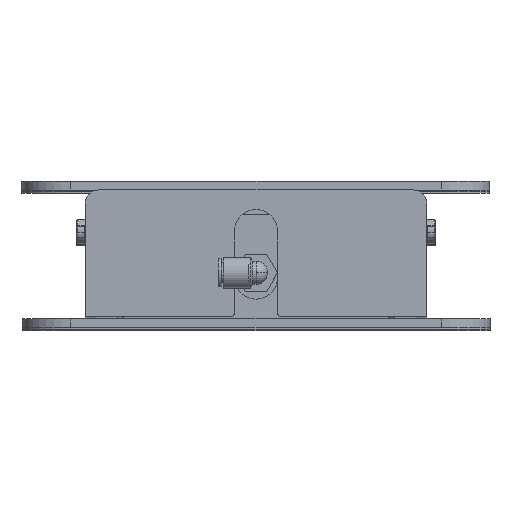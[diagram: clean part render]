
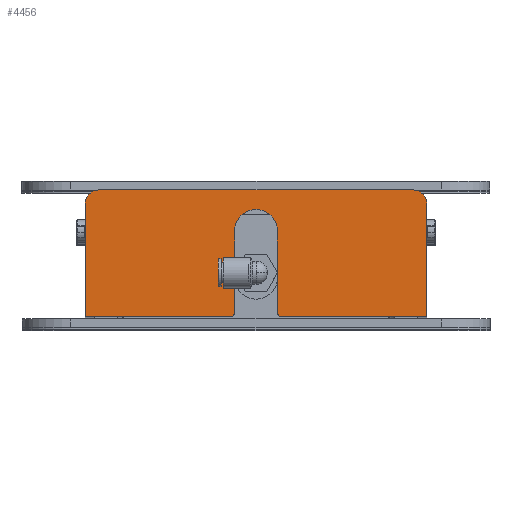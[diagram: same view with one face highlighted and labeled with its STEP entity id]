
A CAD part, top view. The second image highlights one B-rep face of the part: STEP entity #4456.
In plain terms, the highlighted planar face has unit normal (0, 0, 1).
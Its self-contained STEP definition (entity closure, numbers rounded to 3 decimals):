
#96 = ORIENTED_EDGE ( 'NONE', *, *, #3997, .F. ) ;
#107 = EDGE_CURVE ( 'NONE', #4542, #6041, #4423, .T. ) ;
#182 = AXIS2_PLACEMENT_3D ( 'NONE', #1373, #6258, #2102 ) ;
#296 = LINE ( 'NONE', #7805, #4040 ) ;
#327 = CIRCLE ( 'NONE', #2382, 6.75 ) ;
#629 = ORIENTED_EDGE ( 'NONE', *, *, #1342, .T. ) ;
#690 = CIRCLE ( 'NONE', #1013, 2. ) ;
#748 = CARTESIAN_POINT ( 'NONE',  ( 87.5, 25.75, 1000. ) ) ;
#903 = EDGE_LOOP ( 'NONE', ( #5962, #6423, #629, #4422, #5987, #6036, #2576, #7437, #5629, #8675, #96, #8716 ) ) ;
#1013 = AXIS2_PLACEMENT_3D ( 'NONE', #5265, #1056, #5939 ) ;
#1056 = DIRECTION ( 'NONE',  ( 0., 0., 1. ) ) ;
#1158 = VECTOR ( 'NONE', #3980, 1000. ) ;
#1195 = CARTESIAN_POINT ( 'NONE',  ( 0., 11.5, 1000. ) ) ;
#1315 = VERTEX_POINT ( 'NONE', #3939 ) ;
#1342 = EDGE_CURVE ( 'NONE', #6807, #4903, #8809, .T. ) ;
#1372 = CARTESIAN_POINT ( 'NONE',  ( -11., 11.5, 1000. ) ) ;
#1373 = CARTESIAN_POINT ( 'NONE',  ( 80.75, 25.75, 1000. ) ) ;
#1446 = AXIS2_PLACEMENT_3D ( 'NONE', #6606, #2440, #7317 ) ;
#1461 = EDGE_CURVE ( 'NONE', #3888, #4542, #8247, .T. ) ;
#1666 = CARTESIAN_POINT ( 'NONE',  ( 87.5, 32.5, 1000. ) ) ;
#1924 = DIRECTION ( 'NONE',  ( 1., 0., 0. ) ) ;
#2102 = DIRECTION ( 'NONE',  ( 1., 0., 0. ) ) ;
#2267 = DIRECTION ( 'NONE',  ( 0., 1., 0. ) ) ;
#2289 = CARTESIAN_POINT ( 'NONE',  ( -87.5, 32.5, 1000. ) ) ;
#2355 = VECTOR ( 'NONE', #4388, 1000. ) ;
#2376 = DIRECTION ( 'NONE',  ( 0., 1., 0. ) ) ;
#2382 = AXIS2_PLACEMENT_3D ( 'NONE', #7672, #3509, #8365 ) ;
#2398 = VERTEX_POINT ( 'NONE', #8938 ) ;
#2440 = DIRECTION ( 'NONE',  ( 0., 0., 1. ) ) ;
#2487 = EDGE_CURVE ( 'NONE', #6041, #3282, #327, .T. ) ;
#2576 = ORIENTED_EDGE ( 'NONE', *, *, #2487, .T. ) ;
#2627 = AXIS2_PLACEMENT_3D ( 'NONE', #8543, #5024, #4364 ) ;
#2690 = CARTESIAN_POINT ( 'NONE',  ( 11., -30.5, 1000. ) ) ;
#2878 = AXIS2_PLACEMENT_3D ( 'NONE', #1195, #6091, #1924 ) ;
#2898 = DIRECTION ( 'NONE',  ( 0., -1., 0. ) ) ;
#3011 = VECTOR ( 'NONE', #3768, 1000. ) ;
#3282 = VERTEX_POINT ( 'NONE', #3404 ) ;
#3289 = VERTEX_POINT ( 'NONE', #2690 ) ;
#3404 = CARTESIAN_POINT ( 'NONE',  ( -87.5, 25.75, 1000. ) ) ;
#3509 = DIRECTION ( 'NONE',  ( 0., 0., 1. ) ) ;
#3768 = DIRECTION ( 'NONE',  ( 0., -1., 0. ) ) ;
#3775 = VERTEX_POINT ( 'NONE', #1372 ) ;
#3888 = VERTEX_POINT ( 'NONE', #748 ) ;
#3939 = CARTESIAN_POINT ( 'NONE',  ( -13., -32.5, 1000. ) ) ;
#3980 = DIRECTION ( 'NONE',  ( 1., 0., 0. ) ) ;
#3997 = EDGE_CURVE ( 'NONE', #3775, #5121, #6917, .T. ) ;
#3998 = EDGE_CURVE ( 'NONE', #4903, #3888, #8569, .T. ) ;
#4040 = VECTOR ( 'NONE', #2267, 1000. ) ;
#4246 = VECTOR ( 'NONE', #2898, 1000. ) ;
#4290 = CARTESIAN_POINT ( 'NONE',  ( -87.5, 32.5, 1000. ) ) ;
#4364 = DIRECTION ( 'NONE',  ( 1., 0., 0. ) ) ;
#4388 = DIRECTION ( 'NONE',  ( -1., 0., 0. ) ) ;
#4422 = ORIENTED_EDGE ( 'NONE', *, *, #3998, .T. ) ;
#4423 = LINE ( 'NONE', #2289, #2355 ) ;
#4443 = CARTESIAN_POINT ( 'NONE',  ( -11., 11.5, 1000. ) ) ;
#4456 = ADVANCED_FACE ( 'NONE', ( #7666 ), #7834, .T. ) ;
#4542 = VERTEX_POINT ( 'NONE', #5831 ) ;
#4646 = CIRCLE ( 'NONE', #1446, 2. ) ;
#4903 = VERTEX_POINT ( 'NONE', #6184 ) ;
#5024 = DIRECTION ( 'NONE',  ( 0., 0., 1. ) ) ;
#5121 = VERTEX_POINT ( 'NONE', #7016 ) ;
#5218 = EDGE_CURVE ( 'NONE', #3289, #2398, #296, .T. ) ;
#5265 = CARTESIAN_POINT ( 'NONE',  ( -13., -30.5, 1000. ) ) ;
#5511 = EDGE_CURVE ( 'NONE', #6492, #1315, #6985, .T. ) ;
#5556 = EDGE_CURVE ( 'NONE', #2398, #3775, #8408, .T. ) ;
#5629 = ORIENTED_EDGE ( 'NONE', *, *, #5511, .T. ) ;
#5831 = CARTESIAN_POINT ( 'NONE',  ( 80.75, 32.5, 1000. ) ) ;
#5939 = DIRECTION ( 'NONE',  ( 1., 0., 0. ) ) ;
#5962 = ORIENTED_EDGE ( 'NONE', *, *, #5218, .F. ) ;
#5987 = ORIENTED_EDGE ( 'NONE', *, *, #1461, .T. ) ;
#6036 = ORIENTED_EDGE ( 'NONE', *, *, #107, .T. ) ;
#6041 = VERTEX_POINT ( 'NONE', #7355 ) ;
#6091 = DIRECTION ( 'NONE',  ( 0., 0., 1. ) ) ;
#6184 = CARTESIAN_POINT ( 'NONE',  ( 87.5, -32.5, 1000. ) ) ;
#6258 = DIRECTION ( 'NONE',  ( 0., 0., 1. ) ) ;
#6423 = ORIENTED_EDGE ( 'NONE', *, *, #7848, .T. ) ;
#6492 = VERTEX_POINT ( 'NONE', #7650 ) ;
#6509 = VECTOR ( 'NONE', #7517, 1000. ) ;
#6530 = LINE ( 'NONE', #4290, #4246 ) ;
#6606 = CARTESIAN_POINT ( 'NONE',  ( 13., -30.5, 1000. ) ) ;
#6630 = EDGE_CURVE ( 'NONE', #3282, #6492, #6530, .T. ) ;
#6695 = CARTESIAN_POINT ( 'NONE',  ( 13., -32.5, 1000. ) ) ;
#6807 = VERTEX_POINT ( 'NONE', #6695 ) ;
#6812 = CARTESIAN_POINT ( 'NONE',  ( -87.5, -32.5, 1000. ) ) ;
#6917 = LINE ( 'NONE', #4443, #3011 ) ;
#6985 = LINE ( 'NONE', #8834, #1158 ) ;
#7016 = CARTESIAN_POINT ( 'NONE',  ( -11., -30.5, 1000. ) ) ;
#7151 = EDGE_CURVE ( 'NONE', #1315, #5121, #690, .T. ) ;
#7317 = DIRECTION ( 'NONE',  ( 1., 0., 0. ) ) ;
#7355 = CARTESIAN_POINT ( 'NONE',  ( -80.75, 32.5, 1000. ) ) ;
#7437 = ORIENTED_EDGE ( 'NONE', *, *, #6630, .T. ) ;
#7517 = DIRECTION ( 'NONE',  ( 1., 0., 0. ) ) ;
#7650 = CARTESIAN_POINT ( 'NONE',  ( -87.5, -32.5, 1000. ) ) ;
#7666 = FACE_OUTER_BOUND ( 'NONE', #903, .T. ) ;
#7672 = CARTESIAN_POINT ( 'NONE',  ( -80.75, 25.75, 1000. ) ) ;
#7805 = CARTESIAN_POINT ( 'NONE',  ( 11., -32.5, 1000. ) ) ;
#7834 = PLANE ( 'NONE',  #2627 ) ;
#7848 = EDGE_CURVE ( 'NONE', #3289, #6807, #4646, .T. ) ;
#8247 = CIRCLE ( 'NONE', #182, 6.75 ) ;
#8335 = VECTOR ( 'NONE', #2376, 1000. ) ;
#8365 = DIRECTION ( 'NONE',  ( 1., 0., 0. ) ) ;
#8408 = CIRCLE ( 'NONE', #2878, 11. ) ;
#8543 = CARTESIAN_POINT ( 'NONE',  ( 0., 0., 1000. ) ) ;
#8569 = LINE ( 'NONE', #1666, #8335 ) ;
#8675 = ORIENTED_EDGE ( 'NONE', *, *, #7151, .T. ) ;
#8716 = ORIENTED_EDGE ( 'NONE', *, *, #5556, .F. ) ;
#8809 = LINE ( 'NONE', #6812, #6509 ) ;
#8834 = CARTESIAN_POINT ( 'NONE',  ( -87.5, -32.5, 1000. ) ) ;
#8938 = CARTESIAN_POINT ( 'NONE',  ( 11., 11.5, 1000. ) ) ;
